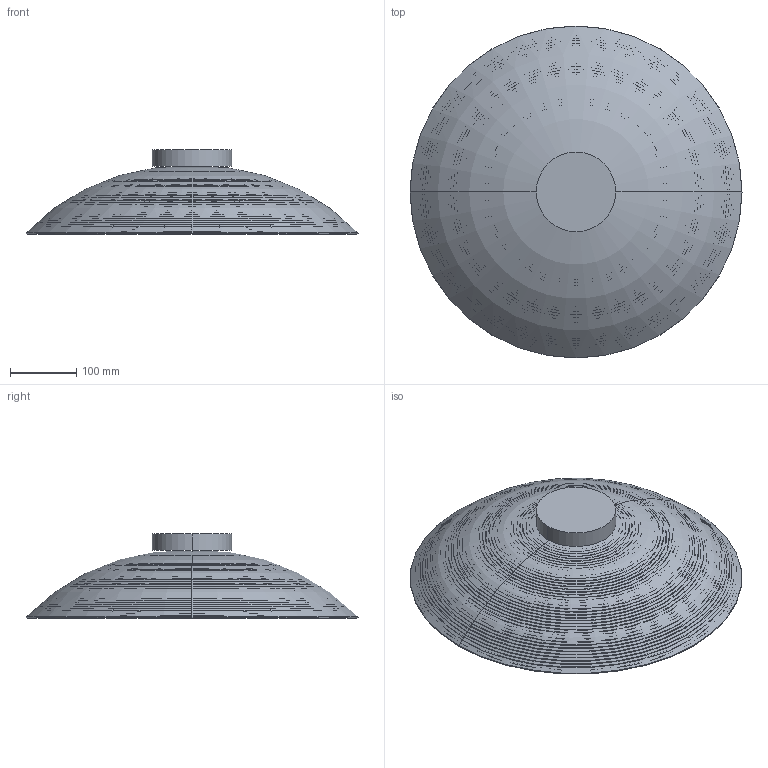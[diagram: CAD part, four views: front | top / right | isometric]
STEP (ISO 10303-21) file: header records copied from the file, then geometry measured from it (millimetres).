
FILE_DESCRIPTION (( 'STEP AP214' ), '1' );
FILE_NAME ('DANA_A1098_50.STEP', '2024-12-19T15:24:33', ( '' ), ( '' ), 'SwSTEP 2.0', 'SolidWorks 2018', '' );
FILE_SCHEMA (( 'AUTOMOTIVE_DESIGN' ));
Length unit declared in the file: millimetre
Products named in the file (1): DANA_A1098_50
Bounding box: 500.55 x 500.55 x 126.94 mm (x, y, z)
Volume: 1039394.2 mm3; surface area: 663385.3 mm2
Topology: 3 solids, 4 shells, 335 faces, 674 edges, 341 vertices
Faces by surface type: torus 322, cone 4, sphere 4, plane 3, cylinder 2
Entity records: 8710 total; most frequent: DIRECTION 1990, CARTESIAN_POINT 1333, ORIENTED_EDGE 1324, AXIS2_PLACEMENT_3D 992, EDGE_CURVE 662, CIRCLE 656, VERTEX_POINT 335, EDGE_LOOP 335
